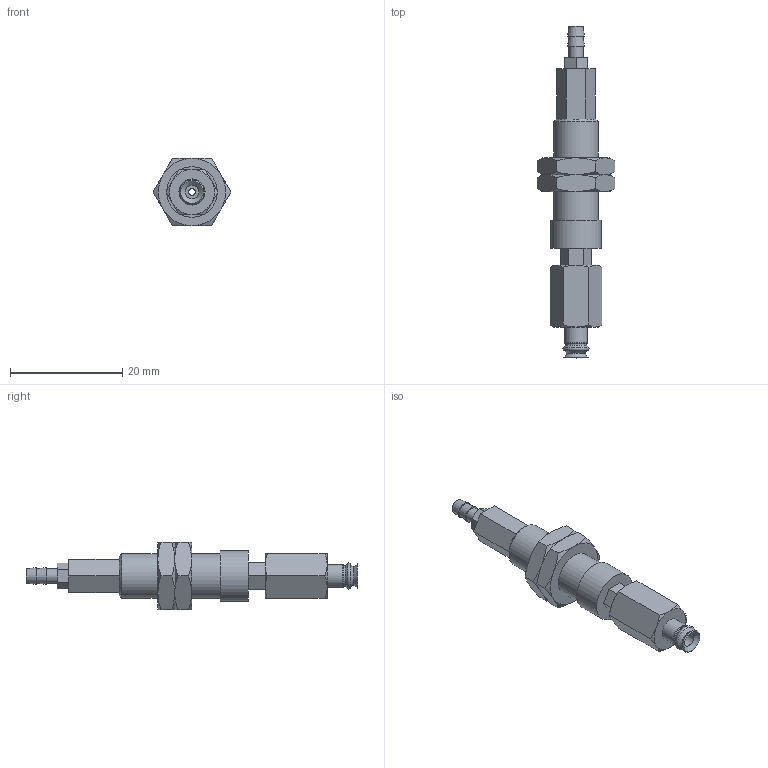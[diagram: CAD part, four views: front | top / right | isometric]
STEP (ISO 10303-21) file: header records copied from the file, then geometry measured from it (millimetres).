
FILE_DESCRIPTION(('STEP AP203'),'1');
FILE_NAME('-T.stp','2025-08-27T06:07:26',(' '),(' '),'Spatial InterOp 3D',' ',' ');
FILE_SCHEMA(('CONFIG_CONTROL_DESIGN'));
Length unit declared in the file: millimetre
Products named in the file (7): BNABPJTH-4-3-※-T; ADAPTER; NAPFTH-2A-3-MBODY; Nut-2A-3-h; NAPFTH-2A-3-FBODY; BPJG-4-※; T (2)
Assembly tree (7 placements, depth 2):
  BNABPJTH-4-3-※-T
    ADAPTER
    NAPFTH-2A-3-MBODY
    Nut-2A-3-h  x2
    NAPFTH-2A-3-FBODY
    BPJG-4-※
    T (2)
Bounding box: 13.86 x 59.1 x 12 mm (x, y, z)
Volume: 2707.9 mm3; surface area: 3338.3 mm2
Topology: 7 solids, 7 shells, 142 faces, 306 edges, 187 vertices
Faces by surface type: plane 65, cone 52, cylinder 16, torus 9
Full cylindrical faces by diameter (mm): 1.2 x3, 2 x2, 2.4 x1, 2.459 x1, 2.5 x1, 3 x3, 4 x1, 7.188 x2, 8 x1, 9 x1
Entity records: 3486 total; most frequent: CARTESIAN_POINT 773, DIRECTION 492, ORIENTED_EDGE 418, EDGE_CURVE 209, AXIS2_PLACEMENT_3D 204, EDGE_LOOP 178, VERTEX_POINT 149, FACE_OUTER_BOUND 143
